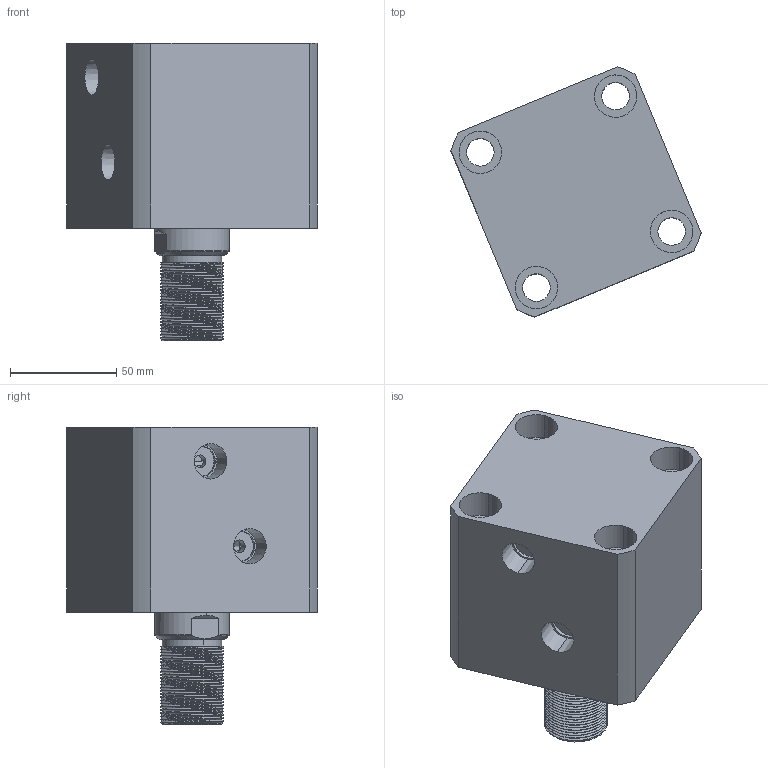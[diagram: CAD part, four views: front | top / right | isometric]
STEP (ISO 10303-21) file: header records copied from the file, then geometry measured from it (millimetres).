
FILE_DESCRIPTION (( 'STEP AP214' ), '1' );
FILE_NAME ('chtb-sd63x20w_asm.STEP', '2018-05-19T01:54:04', ( 'Windows' ), ( 'Microsoft' ), 'SwSTEP 2.0', 'SolidWorks 2015', '' );
FILE_SCHEMA (( 'AUTOMOTIVE_DESIGN' ));
Length unit declared in the file: millimetre
Products named in the file (4): chtb-sd63x20w_asm; CHTB63X20WHSG; CHTB63X20NBT; CHTB-63QG
Assembly tree (3 placements, depth 2):
  chtb-sd63x20w_asm
    CHTB-63QG
    CHTB63X20NBT
    CHTB63X20WHSG
Bounding box: 117.81 x 117.81 x 140 mm (x, y, z)
Volume: 687830 mm3; surface area: 124556.7 mm2
Topology: 3 solids, 3 shells, 219 faces, 625 edges, 427 vertices
Faces by surface type: cylinder 150, plane 36, bspline 14, cone 13, torus 6
Entity records: 22208 total; most frequent: CARTESIAN_POINT 16953, ORIENTED_EDGE 1242, DIRECTION 881, EDGE_CURVE 621, VERTEX_POINT 427, AXIS2_PLACEMENT_3D 346, EDGE_LOOP 252, FACE_OUTER_BOUND 219
